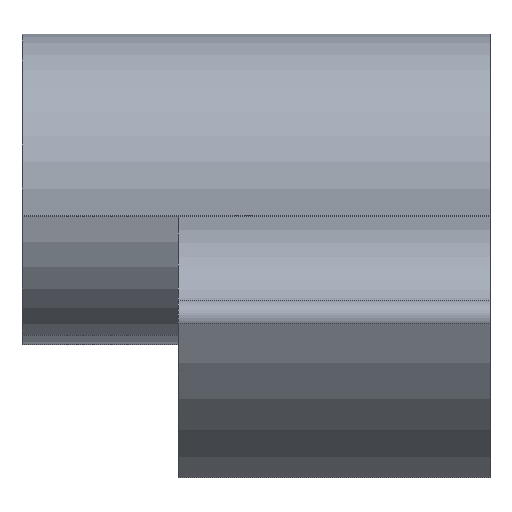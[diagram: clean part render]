
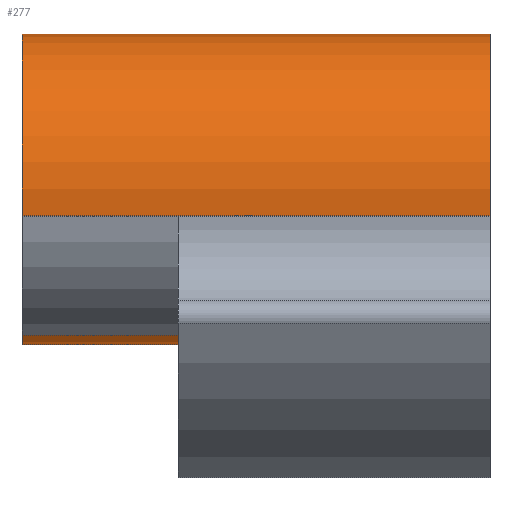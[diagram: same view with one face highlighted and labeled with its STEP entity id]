
A CAD part, top view. The second image highlights one B-rep face of the part: STEP entity #277.
In plain terms, the highlighted cylindrical face has radius 9.95 mm (diameter 19.9 mm), a partial arc.
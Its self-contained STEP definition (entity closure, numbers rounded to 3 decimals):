
#90=CARTESIAN_POINT('',(30.,-7.622,-6.396));
#91=VERTEX_POINT('',#90);
#98=CARTESIAN_POINT('',(30.,-1.718,9.801));
#99=VERTEX_POINT('',#98);
#100=CARTESIAN_POINT('',(30.,0.,0.));
#101=DIRECTION('',(1.,0.,0.));
#102=DIRECTION('',(0.,-0.94,0.342));
#103=AXIS2_PLACEMENT_3D('',#100,#101,#102);
#104=CIRCLE('',#103,9.95);
#105=EDGE_CURVE('',#91,#99,#104,.T.);
#181=CARTESIAN_POINT('',(10.,-9.35,3.403));
#182=VERTEX_POINT('',#181);
#190=CARTESIAN_POINT('',(10.,-7.622,-6.396));
#191=VERTEX_POINT('',#190);
#192=CARTESIAN_POINT('',(10.,0.,0.));
#193=DIRECTION('',(1.,0.,0.));
#194=DIRECTION('',(0.,-0.94,0.342));
#195=AXIS2_PLACEMENT_3D('',#192,#193,#194);
#196=CIRCLE('',#195,9.95);
#197=EDGE_CURVE('',#182,#191,#196,.T.);
#239=CARTESIAN_POINT('',(0.,0.,0.));
#240=DIRECTION('',(1.,0.,0.));
#241=DIRECTION('',(0.,-0.94,0.342));
#242=AXIS2_PLACEMENT_3D('',#239,#240,#241);
#243=CYLINDRICAL_SURFACE('',#242,9.95);
#244=CARTESIAN_POINT('',(0.,-9.35,3.403));
#245=VERTEX_POINT('',#244);
#246=CARTESIAN_POINT('',(10.,-9.35,3.403));
#247=DIRECTION('',(-1.,-0.,-0.));
#248=VECTOR('',#247,10.);
#249=LINE('',#246,#248);
#250=EDGE_CURVE('',#182,#245,#249,.T.);
#251=ORIENTED_EDGE('',*,*,#250,.T.);
#252=CARTESIAN_POINT('',(0.,-1.718,9.801));
#253=VERTEX_POINT('',#252);
#254=CARTESIAN_POINT('',(0.,0.,0.));
#255=DIRECTION('',(1.,0.,0.));
#256=DIRECTION('',(0.,-0.94,0.342));
#257=AXIS2_PLACEMENT_3D('',#254,#255,#256);
#258=CIRCLE('',#257,9.95);
#259=EDGE_CURVE('',#245,#253,#258,.T.);
#260=ORIENTED_EDGE('',*,*,#259,.T.);
#261=CARTESIAN_POINT('',(0.,-1.718,9.801));
#262=DIRECTION('',(1.,0.,-0.));
#263=VECTOR('',#262,30.);
#264=LINE('',#261,#263);
#265=EDGE_CURVE('',#253,#99,#264,.T.);
#266=ORIENTED_EDGE('',*,*,#265,.T.);
#267=ORIENTED_EDGE('',*,*,#105,.F.);
#268=CARTESIAN_POINT('',(10.,-7.622,-6.396));
#269=DIRECTION('',(1.,0.,-0.));
#270=VECTOR('',#269,20.);
#271=LINE('',#268,#270);
#272=EDGE_CURVE('',#191,#91,#271,.T.);
#273=ORIENTED_EDGE('',*,*,#272,.F.);
#274=ORIENTED_EDGE('',*,*,#197,.F.);
#275=EDGE_LOOP('',(#251,#260,#266,#267,#273,#274));
#276=FACE_BOUND('',#275,.T.);
#277=ADVANCED_FACE('',(#276),#243,.T.);
